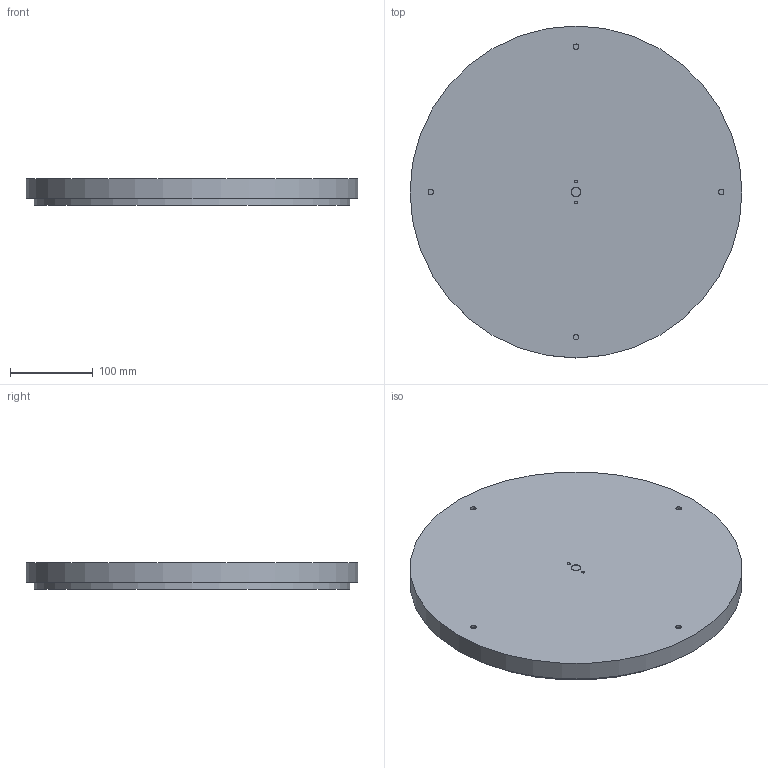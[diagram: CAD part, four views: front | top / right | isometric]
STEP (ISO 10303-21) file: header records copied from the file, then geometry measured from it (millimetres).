
FILE_DESCRIPTION(/* description */ (''),/* implementation_level */ '2;1');
FILE_NAME(/* name */ 'Z:\34-Tei\01-web 3Dデータ\37-IRT型\IRT-400.stp',/* time_stamp */ '2015-01-14T11:16:06+09:00',/* author */ ('yamaki'),/* organization */ (''),/* preprocessor_version */ 'ST-DEVELOPER v15.6',/* originating_system */ 'Autodesk Inventor 2015',/* authorisation */ '');
FILE_SCHEMA (('AUTOMOTIVE_DESIGN { 1 0 10303 214 3 1 1 }'));
Length unit declared in the file: millimetre
Products named in the file (7): 2740TD; 2730SD; 2730SU; 2740TU; JIS B 1111 - Csunk M4 x 6 - H; JIS B 1111 - Csunk M5 x 10 - H; IRT-400
Bounding box: 400 x 400 x 31.6 mm (x, y, z)
Volume: 883691.7 mm3; surface area: 589591.7 mm2
Topology: 10 solids, 10 shells, 255 faces, 638 edges, 413 vertices
Faces by surface type: cone 86, plane 80, cylinder 57, torus 32
Full cylindrical faces by diameter (mm): 3.242 x2, 3.571 x2, 4 x2, 4.134 x4, 4.509 x4, 5 x6, 6 x4, 6.647 x8, 8.4 x2, 9.3 x4, 11.5 x2, 11.7 x1, 12 x5, 21 x1, 26 x1, 31.7 x1, 32 x1, 35 x2, 68 x1, 376 x1, 380 x1, 396 x1, 400 x1
Entity records: 3963 total; most frequent: CARTESIAN_POINT 906, DIRECTION 638, ORIENTED_EDGE 474, AXIS2_PLACEMENT_3D 303, EDGE_LOOP 270, EDGE_CURVE 237, VERTEX_POINT 195, CIRCLE 147
